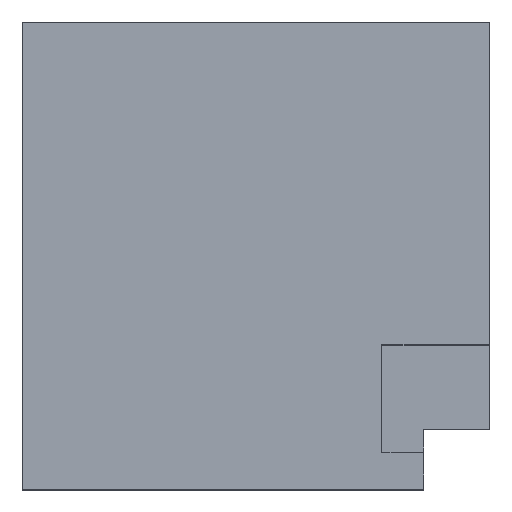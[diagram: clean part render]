
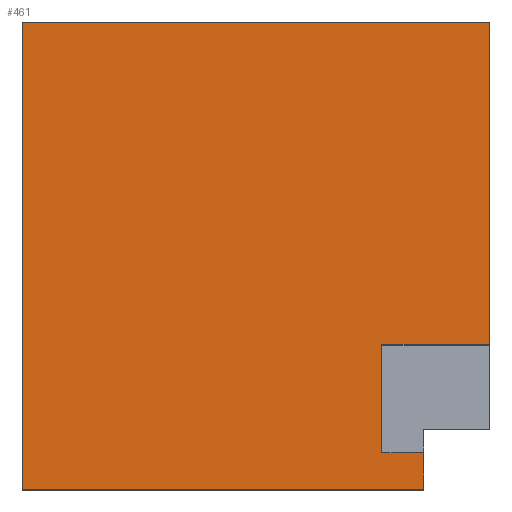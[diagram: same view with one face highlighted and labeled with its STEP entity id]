
A CAD part, top view. The second image highlights one B-rep face of the part: STEP entity #461.
In plain terms, the highlighted planar face has unit normal (0, 0, 1).
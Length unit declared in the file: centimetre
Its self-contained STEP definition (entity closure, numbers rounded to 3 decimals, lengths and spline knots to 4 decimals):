
#46 = VERTEX_POINT ( 'NONE', #638 ) ;
#50 = EDGE_CURVE ( 'NONE', #546, #685, #481, .T. ) ;
#70 = AXIS2_PLACEMENT_3D ( 'NONE', #920, #567, #714 ) ;
#80 = VECTOR ( 'NONE', #417, 100. ) ;
#103 = ORIENTED_EDGE ( 'NONE', *, *, #531, .T. ) ;
#105 = LINE ( 'NONE', #229, #209 ) ;
#143 = CARTESIAN_POINT ( 'NONE',  ( 858.6797, 78.0514, 1000. ) ) ;
#146 = CARTESIAN_POINT ( 'NONE',  ( 0., 0., 1000. ) ) ;
#180 = CARTESIAN_POINT ( 'NONE',  ( 0., 0., 1000. ) ) ;
#209 = VECTOR ( 'NONE', #379, 100. ) ;
#212 = EDGE_CURVE ( 'NONE', #46, #798, #105, .T. ) ;
#219 = VECTOR ( 'NONE', #847, 100. ) ;
#224 = CARTESIAN_POINT ( 'NONE',  ( 0., 1000., 1000. ) ) ;
#229 = CARTESIAN_POINT ( 'NONE',  ( 1000., 1000., 1000. ) ) ;
#239 = CARTESIAN_POINT ( 'NONE',  ( 0., 1000., 1000. ) ) ;
#243 = ORIENTED_EDGE ( 'NONE', *, *, #778, .T. ) ;
#255 = VERTEX_POINT ( 'NONE', #224 ) ;
#259 = EDGE_CURVE ( 'NONE', #908, #780, #737, .T. ) ;
#269 = ORIENTED_EDGE ( 'NONE', *, *, #259, .T. ) ;
#312 = CARTESIAN_POINT ( 'NONE',  ( 769.3804, 309.2967, 1000. ) ) ;
#321 = CARTESIAN_POINT ( 'NONE',  ( 769.3804, 78.0514, 1000. ) ) ;
#353 = FACE_OUTER_BOUND ( 'NONE', #763, .T. ) ;
#379 = DIRECTION ( 'NONE',  ( 0., 1., 0. ) ) ;
#389 = DIRECTION ( 'NONE',  ( -1., 0., 0. ) ) ;
#393 = LINE ( 'NONE', #239, #856 ) ;
#394 = LINE ( 'NONE', #321, #653 ) ;
#417 = DIRECTION ( 'NONE',  ( -1., 0., 0. ) ) ;
#461 = ADVANCED_FACE ( 'NONE', ( #353 ), #640, .T. ) ;
#466 = DIRECTION ( 'NONE',  ( 0., -1., 0. ) ) ;
#480 = ORIENTED_EDGE ( 'NONE', *, *, #50, .F. ) ;
#481 = LINE ( 'NONE', #557, #219 ) ;
#495 = CARTESIAN_POINT ( 'NONE',  ( 0., 1000., 1000. ) ) ;
#498 = LINE ( 'NONE', #844, #766 ) ;
#527 = ORIENTED_EDGE ( 'NONE', *, *, #867, .F. ) ;
#531 = EDGE_CURVE ( 'NONE', #798, #255, #561, .T. ) ;
#546 = VERTEX_POINT ( 'NONE', #918 ) ;
#557 = CARTESIAN_POINT ( 'NONE',  ( 769.3804, 78.0514, 1000. ) ) ;
#561 = LINE ( 'NONE', #495, #80 ) ;
#567 = DIRECTION ( 'NONE',  ( 0., 0., 1. ) ) ;
#579 = EDGE_CURVE ( 'NONE', #685, #780, #498, .T. ) ;
#606 = ORIENTED_EDGE ( 'NONE', *, *, #579, .F. ) ;
#638 = CARTESIAN_POINT ( 'NONE',  ( 1000., 309.2967, 1000. ) ) ;
#640 = PLANE ( 'NONE',  #70 ) ;
#653 = VECTOR ( 'NONE', #674, 100. ) ;
#673 = CARTESIAN_POINT ( 'NONE',  ( 858.6797, 0., 1000. ) ) ;
#674 = DIRECTION ( 'NONE',  ( 0., -1., 0. ) ) ;
#685 = VERTEX_POINT ( 'NONE', #143 ) ;
#701 = ORIENTED_EDGE ( 'NONE', *, *, #741, .F. ) ;
#709 = VECTOR ( 'NONE', #389, 100. ) ;
#713 = VECTOR ( 'NONE', #801, 100. ) ;
#714 = DIRECTION ( 'NONE',  ( 1., 0., 0. ) ) ;
#728 = VERTEX_POINT ( 'NONE', #815 ) ;
#737 = LINE ( 'NONE', #146, #713 ) ;
#741 = EDGE_CURVE ( 'NONE', #46, #728, #746, .T. ) ;
#746 = LINE ( 'NONE', #312, #709 ) ;
#763 = EDGE_LOOP ( 'NONE', ( #701, #898, #103, #243, #269, #606, #480, #527 ) ) ;
#766 = VECTOR ( 'NONE', #784, 100. ) ;
#778 = EDGE_CURVE ( 'NONE', #255, #908, #393, .T. ) ;
#780 = VERTEX_POINT ( 'NONE', #673 ) ;
#784 = DIRECTION ( 'NONE',  ( 0., -1., 0. ) ) ;
#798 = VERTEX_POINT ( 'NONE', #879 ) ;
#801 = DIRECTION ( 'NONE',  ( 1., 0., 0. ) ) ;
#815 = CARTESIAN_POINT ( 'NONE',  ( 769.3804, 309.2967, 1000. ) ) ;
#844 = CARTESIAN_POINT ( 'NONE',  ( 858.6797, 0., 1000. ) ) ;
#847 = DIRECTION ( 'NONE',  ( 1., 0., 0. ) ) ;
#856 = VECTOR ( 'NONE', #466, 100. ) ;
#867 = EDGE_CURVE ( 'NONE', #728, #546, #394, .T. ) ;
#879 = CARTESIAN_POINT ( 'NONE',  ( 1000., 1000., 1000. ) ) ;
#898 = ORIENTED_EDGE ( 'NONE', *, *, #212, .T. ) ;
#908 = VERTEX_POINT ( 'NONE', #180 ) ;
#918 = CARTESIAN_POINT ( 'NONE',  ( 769.3804, 78.0514, 1000. ) ) ;
#920 = CARTESIAN_POINT ( 'NONE',  ( 0., 0., 1000. ) ) ;
